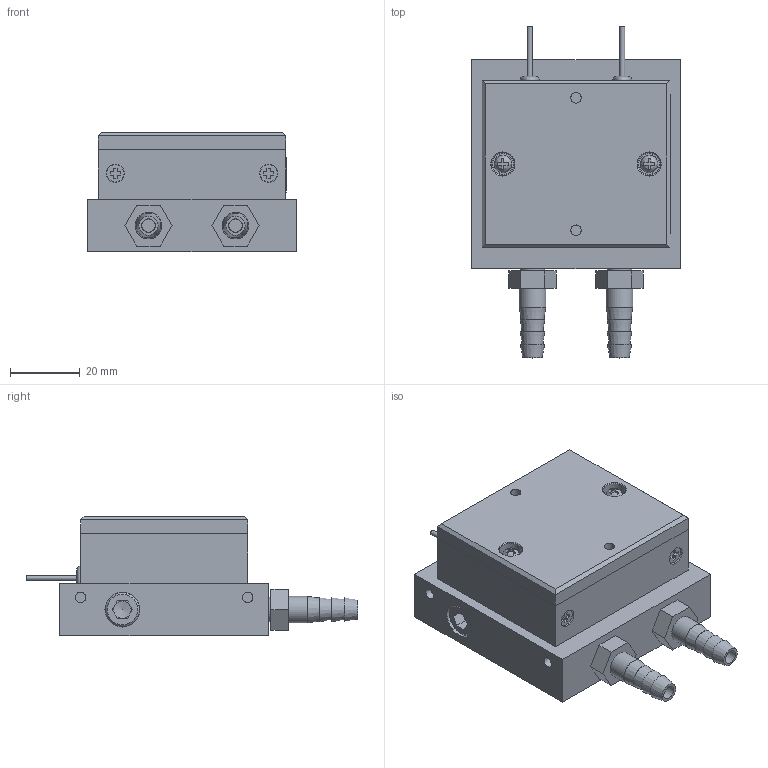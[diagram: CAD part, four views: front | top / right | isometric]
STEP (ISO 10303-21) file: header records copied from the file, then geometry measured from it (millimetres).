
FILE_DESCRIPTION(('STEP AP214'),'1');
FILE_NAME('HMC-11W-0100.stp','2026-03-16T23:44:58',(' '),(' '),'Spatial InterOp 3D',' ',' ');
FILE_SCHEMA(('AUTOMOTIVE_DESIGN { 1 0 10303 214 1 1 1 1 }'));
Length unit declared in the file: metre
Products named in the file (12): HMC-11W-0100; 水路版; 樹脂枠; 皿ネジ; 接着剤封止箇所; ホースニップル; ペルチェリード線; 小型ワッシャー+ばね座金; ネジ; 沈みプラグ; 冷却板; 製造番号シール
Assembly tree (11 placements, depth 2):
  HMC-11W-0100
    水路版
    樹脂枠
    皿ネジ
    接着剤封止箇所
    ホースニップル
    ペルチェリード線
    小型ワッシャー+ばね座金
    ネジ
    沈みプラグ
    冷却板
    製造番号シール
Bounding box: 60 x 95.34 x 34.3 mm (x, y, z)
Volume: 102420.1 mm3; surface area: 32156.3 mm2
Topology: 21 solids, 21 shells, 274 faces, 629 edges, 400 vertices
Faces by surface type: plane 219, cylinder 35, cone 14, bspline 4, extrusion 2
Full cylindrical faces by diameter (mm): 1.4 x2, 3 x8, 3.81 x2, 4 x2, 5 x6, 5.2 x4, 6 x2, 6.5 x2, 7 x2, 7.61 x2, 8 x2, 10 x1
Entity records: 10605 total; most frequent: CARTESIAN_POINT 2297, DIRECTION 1162, ORIENTED_EDGE 1044, EDGE_CURVE 522, AXIS2_PLACEMENT_3D 390, VECTOR 382, LINE 380, VERTEX_POINT 377
